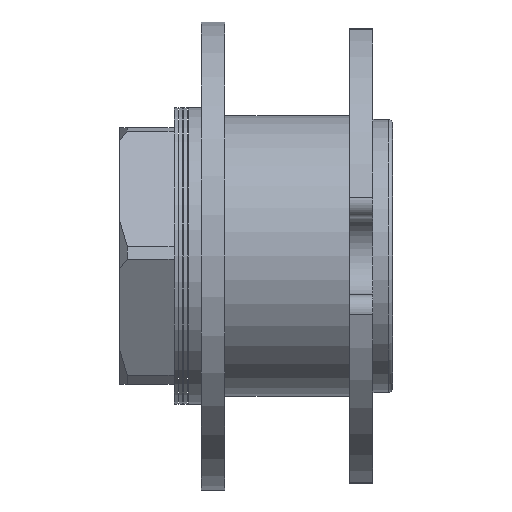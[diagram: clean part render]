
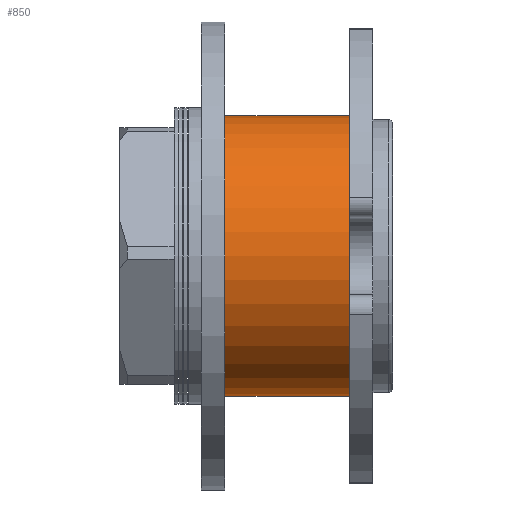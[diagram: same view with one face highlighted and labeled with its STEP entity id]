
A CAD part, left-side view. The second image highlights one B-rep face of the part: STEP entity #850.
In plain terms, the highlighted cylindrical face has radius 18 mm (diameter 36 mm), a partial arc.
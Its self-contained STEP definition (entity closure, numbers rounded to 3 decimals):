
#23 = VECTOR ( 'NONE', #732, 1000. ) ;
#47 = EDGE_CURVE ( 'NONE', #3064, #1489, #206, .T. ) ;
#98 = EDGE_CURVE ( 'NONE', #347, #2480, #2285, .T. ) ;
#177 = CARTESIAN_POINT ( 'NONE',  ( 0., 21.5, -18. ) ) ;
#206 = LINE ( 'NONE', #3356, #23 ) ;
#347 = VERTEX_POINT ( 'NONE', #3273 ) ;
#351 = CARTESIAN_POINT ( 'NONE',  ( 0., 5.5, 18. ) ) ;
#422 = CARTESIAN_POINT ( 'NONE',  ( 0., 21.5, 0. ) ) ;
#608 = EDGE_CURVE ( 'NONE', #3064, #347, #1935, .T. ) ;
#732 = DIRECTION ( 'NONE',  ( 0., -1., 0. ) ) ;
#818 = ORIENTED_EDGE ( 'NONE', *, *, #98, .F. ) ;
#850 = ADVANCED_FACE ( 'NONE', ( #1693 ), #3324, .T. ) ;
#972 = DIRECTION ( 'NONE',  ( 0., -1., 0. ) ) ;
#1039 = CARTESIAN_POINT ( 'NONE',  ( 0., 21.5, 18. ) ) ;
#1207 = ORIENTED_EDGE ( 'NONE', *, *, #1384, .T. ) ;
#1287 = VECTOR ( 'NONE', #3339, 1000. ) ;
#1344 = DIRECTION ( 'NONE',  ( 0., 0., 1. ) ) ;
#1384 = EDGE_CURVE ( 'NONE', #1489, #2480, #3000, .T. ) ;
#1451 = DIRECTION ( 'NONE',  ( 0., 0., -1. ) ) ;
#1489 = VERTEX_POINT ( 'NONE', #1779 ) ;
#1693 = FACE_OUTER_BOUND ( 'NONE', #3265, .T. ) ;
#1779 = CARTESIAN_POINT ( 'NONE',  ( 0., 5.5, -18. ) ) ;
#1853 = ORIENTED_EDGE ( 'NONE', *, *, #47, .T. ) ;
#1873 = DIRECTION ( 'NONE',  ( 0., 1., 0. ) ) ;
#1935 = CIRCLE ( 'NONE', #2988, 18. ) ;
#1947 = CARTESIAN_POINT ( 'NONE',  ( 0., 5.5, 0. ) ) ;
#2117 = AXIS2_PLACEMENT_3D ( 'NONE', #1947, #2783, #2537 ) ;
#2285 = LINE ( 'NONE', #1039, #1287 ) ;
#2480 = VERTEX_POINT ( 'NONE', #351 ) ;
#2537 = DIRECTION ( 'NONE',  ( 0., 0., 1. ) ) ;
#2622 = ORIENTED_EDGE ( 'NONE', *, *, #608, .F. ) ;
#2783 = DIRECTION ( 'NONE',  ( 0., 1., 0. ) ) ;
#2988 = AXIS2_PLACEMENT_3D ( 'NONE', #2997, #1873, #1344 ) ;
#2997 = CARTESIAN_POINT ( 'NONE',  ( 0., 21.5, 0. ) ) ;
#3000 = CIRCLE ( 'NONE', #2117, 18. ) ;
#3049 = AXIS2_PLACEMENT_3D ( 'NONE', #422, #972, #1451 ) ;
#3064 = VERTEX_POINT ( 'NONE', #177 ) ;
#3265 = EDGE_LOOP ( 'NONE', ( #818, #2622, #1853, #1207 ) ) ;
#3273 = CARTESIAN_POINT ( 'NONE',  ( 0., 21.5, 18. ) ) ;
#3324 = CYLINDRICAL_SURFACE ( 'NONE', #3049, 18. ) ;
#3339 = DIRECTION ( 'NONE',  ( 0., -1., 0. ) ) ;
#3356 = CARTESIAN_POINT ( 'NONE',  ( 0., 21.5, -18. ) ) ;
